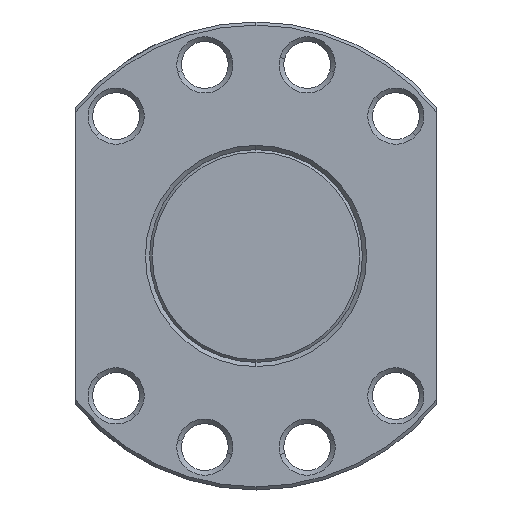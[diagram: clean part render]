
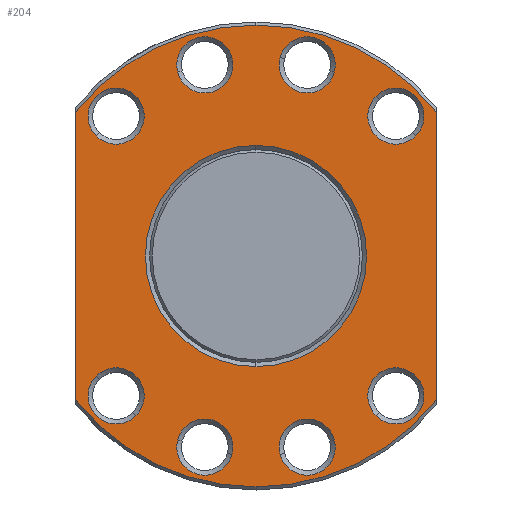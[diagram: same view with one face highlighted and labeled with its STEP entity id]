
A CAD part, left-side view. The second image highlights one B-rep face of the part: STEP entity #204.
In plain terms, the highlighted planar face has unit normal (-1, 0, 0).
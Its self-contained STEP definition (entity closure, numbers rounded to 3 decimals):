
#204=ADVANCED_FACE('',(#386,#387,#388,#389,#390,#391,#392,#393,#394,#395),#396,.T.);
#386=FACE_BOUND('',#587,.T.);
#387=FACE_OUTER_BOUND('',#588,.T.);
#388=FACE_BOUND('',#589,.T.);
#389=FACE_BOUND('',#590,.T.);
#390=FACE_BOUND('',#591,.T.);
#391=FACE_BOUND('',#592,.T.);
#392=FACE_BOUND('',#593,.T.);
#393=FACE_BOUND('',#594,.T.);
#394=FACE_BOUND('',#595,.T.);
#395=FACE_BOUND('',#596,.T.);
#396=PLANE('',#597);
#587=EDGE_LOOP('',(#1207,#1208));
#588=EDGE_LOOP('',(#1209,#1210,#1211,#1212,#1213,#1214));
#589=EDGE_LOOP('',(#1215,#1216));
#590=EDGE_LOOP('',(#1217,#1218));
#591=EDGE_LOOP('',(#1219,#1220));
#592=EDGE_LOOP('',(#1221,#1222));
#593=EDGE_LOOP('',(#1223,#1224));
#594=EDGE_LOOP('',(#1225,#1226));
#595=EDGE_LOOP('',(#1227,#1228));
#596=EDGE_LOOP('',(#1229,#1230));
#597=AXIS2_PLACEMENT_3D('',#1231,#1232,#1233);
#1207=ORIENTED_EDGE('',*,*,#1436,.T.);
#1208=ORIENTED_EDGE('',*,*,#1416,.T.);
#1209=ORIENTED_EDGE('',*,*,#1437,.T.);
#1210=ORIENTED_EDGE('',*,*,#1485,.F.);
#1211=ORIENTED_EDGE('',*,*,#1324,.F.);
#1212=ORIENTED_EDGE('',*,*,#1460,.T.);
#1213=ORIENTED_EDGE('',*,*,#1406,.F.);
#1214=ORIENTED_EDGE('',*,*,#1459,.F.);
#1215=ORIENTED_EDGE('',*,*,#1463,.T.);
#1216=ORIENTED_EDGE('',*,*,#1396,.T.);
#1217=ORIENTED_EDGE('',*,*,#1466,.T.);
#1218=ORIENTED_EDGE('',*,*,#1386,.T.);
#1219=ORIENTED_EDGE('',*,*,#1469,.T.);
#1220=ORIENTED_EDGE('',*,*,#1376,.T.);
#1221=ORIENTED_EDGE('',*,*,#1472,.T.);
#1222=ORIENTED_EDGE('',*,*,#1366,.T.);
#1223=ORIENTED_EDGE('',*,*,#1475,.T.);
#1224=ORIENTED_EDGE('',*,*,#1356,.T.);
#1225=ORIENTED_EDGE('',*,*,#1478,.T.);
#1226=ORIENTED_EDGE('',*,*,#1346,.T.);
#1227=ORIENTED_EDGE('',*,*,#1481,.T.);
#1228=ORIENTED_EDGE('',*,*,#1336,.T.);
#1229=ORIENTED_EDGE('',*,*,#1484,.T.);
#1230=ORIENTED_EDGE('',*,*,#1326,.T.);
#1231=CARTESIAN_POINT('',(25.0,0.0,27.13));
#1232=DIRECTION('',(-1.0,0.0,0.));
#1233=DIRECTION('',(0.,0.0,-1.0));
#1324=EDGE_CURVE('',#1550,#1548,#1552,.T.);
#1326=EDGE_CURVE('',#1556,#1553,#1557,.T.);
#1336=EDGE_CURVE('',#1574,#1571,#1575,.T.);
#1346=EDGE_CURVE('',#1592,#1589,#1593,.T.);
#1356=EDGE_CURVE('',#1610,#1607,#1611,.T.);
#1366=EDGE_CURVE('',#1628,#1625,#1629,.T.);
#1376=EDGE_CURVE('',#1646,#1643,#1647,.T.);
#1386=EDGE_CURVE('',#1664,#1661,#1665,.T.);
#1396=EDGE_CURVE('',#1682,#1679,#1683,.T.);
#1406=EDGE_CURVE('',#1697,#1700,#1701,.T.);
#1416=EDGE_CURVE('',#1718,#1715,#1719,.T.);
#1436=EDGE_CURVE('',#1715,#1718,#1749,.T.);
#1437=EDGE_CURVE('',#1750,#1751,#1752,.T.);
#1459=EDGE_CURVE('',#1750,#1697,#1780,.T.);
#1460=EDGE_CURVE('',#1550,#1700,#1781,.T.);
#1463=EDGE_CURVE('',#1679,#1682,#1784,.T.);
#1466=EDGE_CURVE('',#1661,#1664,#1787,.T.);
#1469=EDGE_CURVE('',#1643,#1646,#1790,.T.);
#1472=EDGE_CURVE('',#1625,#1628,#1793,.T.);
#1475=EDGE_CURVE('',#1607,#1610,#1796,.T.);
#1478=EDGE_CURVE('',#1589,#1592,#1799,.T.);
#1481=EDGE_CURVE('',#1571,#1574,#1802,.T.);
#1484=EDGE_CURVE('',#1553,#1556,#1805,.T.);
#1485=EDGE_CURVE('',#1548,#1751,#1806,.T.);
#1548=VERTEX_POINT('',#1893);
#1550=VERTEX_POINT('',#1896);
#1552=CIRCLE('',#1907,54.26);
#1553=VERTEX_POINT('',#1908);
#1556=VERTEX_POINT('',#1912);
#1557=CIRCLE('',#1913,6.6);
#1571=VERTEX_POINT('',#1932);
#1574=VERTEX_POINT('',#1936);
#1575=CIRCLE('',#1937,6.6);
#1589=VERTEX_POINT('',#1956);
#1592=VERTEX_POINT('',#1960);
#1593=CIRCLE('',#1961,6.6);
#1607=VERTEX_POINT('',#1980);
#1610=VERTEX_POINT('',#1984);
#1611=CIRCLE('',#1985,6.6);
#1625=VERTEX_POINT('',#2004);
#1628=VERTEX_POINT('',#2008);
#1629=CIRCLE('',#2009,6.6);
#1643=VERTEX_POINT('',#2028);
#1646=VERTEX_POINT('',#2032);
#1647=CIRCLE('',#2033,6.6);
#1661=VERTEX_POINT('',#2052);
#1664=VERTEX_POINT('',#2056);
#1665=CIRCLE('',#2057,6.6);
#1679=VERTEX_POINT('',#2076);
#1682=VERTEX_POINT('',#2080);
#1683=CIRCLE('',#2081,6.6);
#1697=VERTEX_POINT('',#2100);
#1700=VERTEX_POINT('',#2104);
#1701=CIRCLE('',#2105,54.26);
#1715=VERTEX_POINT('',#2140);
#1718=VERTEX_POINT('',#2144);
#1719=CIRCLE('',#2145,26.0);
#1749=CIRCLE('',#2251,26.0);
#1750=VERTEX_POINT('',#2252);
#1751=VERTEX_POINT('',#2253);
#1752=LINE('',#2254,#2255);
#1780=CIRCLE('',#2323,54.26);
#1781=LINE('',#2324,#2325);
#1784=CIRCLE('',#2328,6.6);
#1787=CIRCLE('',#2331,6.6);
#1790=CIRCLE('',#2334,6.6);
#1793=CIRCLE('',#2337,6.6);
#1796=CIRCLE('',#2340,6.6);
#1799=CIRCLE('',#2343,6.6);
#1802=CIRCLE('',#2346,6.6);
#1805=CIRCLE('',#2349,6.6);
#1806=CIRCLE('',#2350,54.26);
#1893=CARTESIAN_POINT('',(25.0,0.,-54.26));
#1896=CARTESIAN_POINT('',(25.0,-42.5,-33.733));
#1907=AXIS2_PLACEMENT_3D('',#2421,#2422,#2423);
#1908=CARTESIAN_POINT('',(25.0,-28.214,37.547));
#1912=CARTESIAN_POINT('',(25.0,-37.547,28.214));
#1913=AXIS2_PLACEMENT_3D('',#2425,#2426,#2427);
#1932=CARTESIAN_POINT('',(25.0,-5.66,46.624));
#1936=CARTESIAN_POINT('',(25.0,-18.41,43.207));
#1937=AXIS2_PLACEMENT_3D('',#2443,#2444,#2445);
#1956=CARTESIAN_POINT('',(25.0,18.41,43.207));
#1960=CARTESIAN_POINT('',(25.0,5.66,46.624));
#1961=AXIS2_PLACEMENT_3D('',#2461,#2462,#2463);
#1980=CARTESIAN_POINT('',(25.0,37.547,28.214));
#1984=CARTESIAN_POINT('',(25.0,28.214,37.547));
#1985=AXIS2_PLACEMENT_3D('',#2479,#2480,#2481);
#2004=CARTESIAN_POINT('',(25.0,28.214,-37.547));
#2008=CARTESIAN_POINT('',(25.0,37.547,-28.214));
#2009=AXIS2_PLACEMENT_3D('',#2497,#2498,#2499);
#2028=CARTESIAN_POINT('',(25.0,5.66,-46.624));
#2032=CARTESIAN_POINT('',(25.0,18.41,-43.207));
#2033=AXIS2_PLACEMENT_3D('',#2515,#2516,#2517);
#2052=CARTESIAN_POINT('',(25.0,-18.41,-43.207));
#2056=CARTESIAN_POINT('',(25.0,-5.66,-46.624));
#2057=AXIS2_PLACEMENT_3D('',#2533,#2534,#2535);
#2076=CARTESIAN_POINT('',(25.0,-37.547,-28.214));
#2080=CARTESIAN_POINT('',(25.0,-28.214,-37.547));
#2081=AXIS2_PLACEMENT_3D('',#2551,#2552,#2553);
#2100=CARTESIAN_POINT('',(25.0,0.,54.26));
#2104=CARTESIAN_POINT('',(25.0,-42.5,33.733));
#2105=AXIS2_PLACEMENT_3D('',#2569,#2570,#2571);
#2140=CARTESIAN_POINT('',(25.0,0.0,26.0));
#2144=CARTESIAN_POINT('',(25.0,0.,-26.0));
#2145=AXIS2_PLACEMENT_3D('',#2585,#2586,#2587);
#2251=AXIS2_PLACEMENT_3D('',#2621,#2622,#2623);
#2252=CARTESIAN_POINT('',(25.0,42.5,33.733));
#2253=CARTESIAN_POINT('',(25.0,42.5,-33.733));
#2254=CARTESIAN_POINT('',(25.0,42.5,13.565));
#2255=VECTOR('',#2624,1.0);
#2323=AXIS2_PLACEMENT_3D('',#2668,#2669,#2670);
#2324=CARTESIAN_POINT('',(25.0,-42.5,13.565));
#2325=VECTOR('',#2671,1.0);
#2328=AXIS2_PLACEMENT_3D('',#2678,#2679,#2680);
#2331=AXIS2_PLACEMENT_3D('',#2687,#2688,#2689);
#2334=AXIS2_PLACEMENT_3D('',#2696,#2697,#2698);
#2337=AXIS2_PLACEMENT_3D('',#2705,#2706,#2707);
#2340=AXIS2_PLACEMENT_3D('',#2714,#2715,#2716);
#2343=AXIS2_PLACEMENT_3D('',#2723,#2724,#2725);
#2346=AXIS2_PLACEMENT_3D('',#2732,#2733,#2734);
#2349=AXIS2_PLACEMENT_3D('',#2741,#2742,#2743);
#2350=AXIS2_PLACEMENT_3D('',#2744,#2745,#2746);
#2421=CARTESIAN_POINT('',(25.0,0.0,0.0));
#2422=DIRECTION('',(1.0,0.0,-0.0));
#2423=DIRECTION('',(0.0,0.0,1.0));
#2425=CARTESIAN_POINT('',(25.0,-32.88,32.88));
#2426=DIRECTION('',(1.0,0.0,0.));
#2427=DIRECTION('',(0.,0.707,0.707));
#2443=CARTESIAN_POINT('',(25.0,-12.035,44.916));
#2444=DIRECTION('',(1.0,0.0,0.));
#2445=DIRECTION('',(0.,0.966,0.259));
#2461=CARTESIAN_POINT('',(25.0,12.035,44.916));
#2462=DIRECTION('',(1.0,0.0,0.));
#2463=DIRECTION('',(0.,0.966,-0.259));
#2479=CARTESIAN_POINT('',(25.0,32.88,32.88));
#2480=DIRECTION('',(1.0,0.0,0.));
#2481=DIRECTION('',(0.,0.707,-0.707));
#2497=CARTESIAN_POINT('',(25.0,32.88,-32.88));
#2498=DIRECTION('',(1.0,0.0,0.));
#2499=DIRECTION('',(0.,-0.707,-0.707));
#2515=CARTESIAN_POINT('',(25.0,12.035,-44.916));
#2516=DIRECTION('',(1.0,0.0,0.));
#2517=DIRECTION('',(0.,-0.966,-0.259));
#2533=CARTESIAN_POINT('',(25.0,-12.035,-44.916));
#2534=DIRECTION('',(1.0,0.0,0.));
#2535=DIRECTION('',(0.,-0.966,0.259));
#2551=CARTESIAN_POINT('',(25.0,-32.88,-32.88));
#2552=DIRECTION('',(1.0,0.0,0.));
#2553=DIRECTION('',(0.,-0.707,0.707));
#2569=CARTESIAN_POINT('',(25.0,0.0,0.0));
#2570=DIRECTION('',(1.0,0.0,-0.0));
#2571=DIRECTION('',(0.0,0.0,1.0));
#2585=CARTESIAN_POINT('',(25.0,0.0,0.0));
#2586=DIRECTION('',(1.0,0.0,0.));
#2587=DIRECTION('',(0.,0.0,1.0));
#2621=CARTESIAN_POINT('',(25.0,0.0,0.0));
#2622=DIRECTION('',(1.0,0.0,0.));
#2623=DIRECTION('',(0.,0.0,1.0));
#2624=DIRECTION('',(0.,0.0,-1.0));
#2668=CARTESIAN_POINT('',(25.0,0.0,0.0));
#2669=DIRECTION('',(1.0,0.0,-0.0));
#2670=DIRECTION('',(0.0,0.0,1.0));
#2671=DIRECTION('',(0.,0.0,1.0));
#2678=CARTESIAN_POINT('',(25.0,-32.88,-32.88));
#2679=DIRECTION('',(1.0,0.0,0.));
#2680=DIRECTION('',(0.,-0.707,0.707));
#2687=CARTESIAN_POINT('',(25.0,-12.035,-44.916));
#2688=DIRECTION('',(1.0,0.0,0.));
#2689=DIRECTION('',(0.,-0.966,0.259));
#2696=CARTESIAN_POINT('',(25.0,12.035,-44.916));
#2697=DIRECTION('',(1.0,0.0,0.));
#2698=DIRECTION('',(0.,-0.966,-0.259));
#2705=CARTESIAN_POINT('',(25.0,32.88,-32.88));
#2706=DIRECTION('',(1.0,0.0,0.));
#2707=DIRECTION('',(0.,-0.707,-0.707));
#2714=CARTESIAN_POINT('',(25.0,32.88,32.88));
#2715=DIRECTION('',(1.0,0.0,0.));
#2716=DIRECTION('',(0.,0.707,-0.707));
#2723=CARTESIAN_POINT('',(25.0,12.035,44.916));
#2724=DIRECTION('',(1.0,0.0,0.));
#2725=DIRECTION('',(0.,0.966,-0.259));
#2732=CARTESIAN_POINT('',(25.0,-12.035,44.916));
#2733=DIRECTION('',(1.0,0.0,0.));
#2734=DIRECTION('',(0.,0.966,0.259));
#2741=CARTESIAN_POINT('',(25.0,-32.88,32.88));
#2742=DIRECTION('',(1.0,0.0,0.));
#2743=DIRECTION('',(0.,0.707,0.707));
#2744=CARTESIAN_POINT('',(25.0,0.0,0.0));
#2745=DIRECTION('',(1.0,0.0,-0.0));
#2746=DIRECTION('',(0.0,0.0,1.0));
